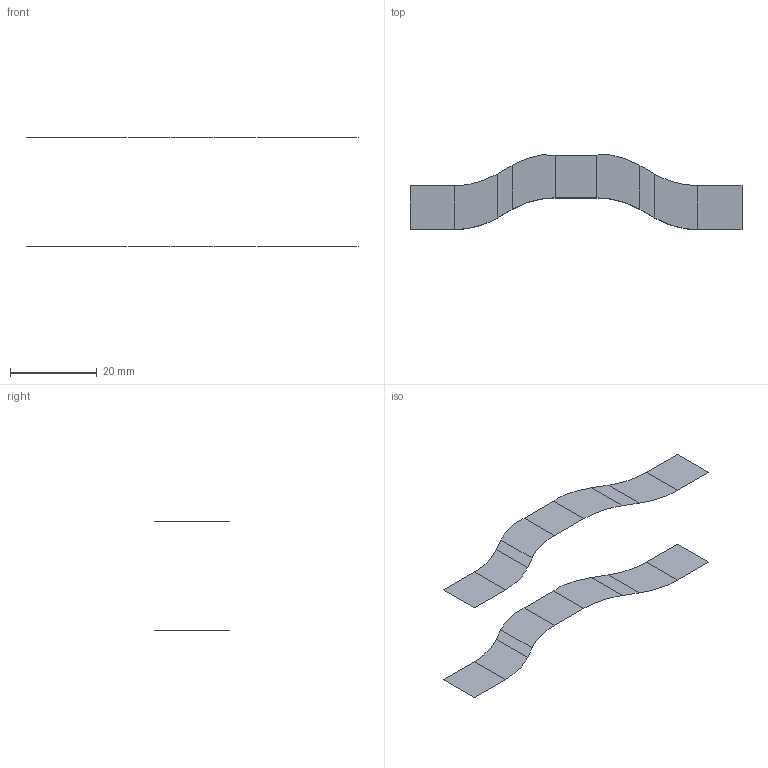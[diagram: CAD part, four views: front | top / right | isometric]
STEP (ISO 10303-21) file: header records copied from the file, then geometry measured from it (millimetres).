
FILE_DESCRIPTION( ( 'STEP Version 203' ), '1' );
FILE_NAME( 'D:/SEMINAR/0_Unterlagen/(MHS)_Simulation von Composites mit ANSYS Composite PrePost/ANSYS_Composite_and_ACP_Training_V15_ANSYS_Layout/15_Workshop_7_Solid_Modeling/guide.stp', '03/30/14 22:41:05', ( 'mhandschick' ), ( ' ' ), 'PSStep 14.0', 'DesignModeler STEP Output', ' ' );
FILE_SCHEMA( ( 'CONFIG_CONTROL_DESIGN' ) );
Length unit declared in the file: metre
Products named in the file (2): 1; 2
Bounding box: 76.71 x 17.42 x 25.4 mm (x, y, z)
Surface area: 1544.3 mm2 (no closed solid volume)
Topology: 0 solids, 18 shells, 18 faces, 72 edges, 72 vertices
Faces by surface type: plane 10, bspline 8
Entity records: 1119 total; most frequent: CARTESIAN_POINT 572, ORIENTED_EDGE 72, EDGE_CURVE 72, VERTEX_POINT 72, DIRECTION 64, LINE 40, VECTOR 40, B_SPLINE_CURVE_WITH_KNOTS 32
